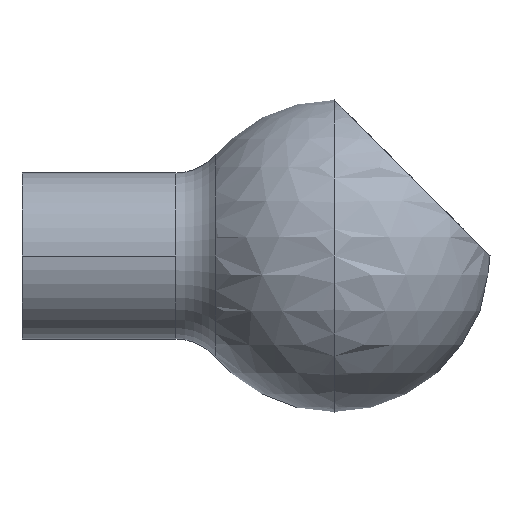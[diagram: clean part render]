
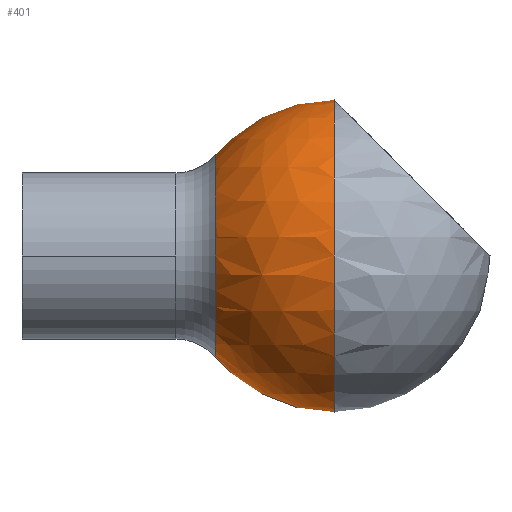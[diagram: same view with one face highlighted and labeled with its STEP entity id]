
A CAD part, left-side view. The second image highlights one B-rep face of the part: STEP entity #401.
In plain terms, the highlighted spherical face has radius 15 mm.
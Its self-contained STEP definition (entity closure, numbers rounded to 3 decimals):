
#153 = EDGE_CURVE( '', #283, #293, #427, .T. );
#199 = EDGE_CURVE( '', #347, #283, #480, .T. );
#259 = VERTEX_POINT( '', #548 );
#279 = VERTEX_POINT( '', #570 );
#283 = VERTEX_POINT( '', #574 );
#293 = VERTEX_POINT( '', #584 );
#297 = VERTEX_POINT( '', #588 );
#305 = VERTEX_POINT( '', #596 );
#323 = EDGE_CURVE( '', #293, #305, #614, .T. );
#333 = EDGE_CURVE( '', #305, #297, #626, .T. );
#339 = EDGE_CURVE( '', #259, #279, #632, .T. );
#347 = VERTEX_POINT( '', #642 );
#349 = EDGE_CURVE( '', #367, #347, #644, .T. );
#367 = VERTEX_POINT( '', #664 );
#379 = EDGE_CURVE( '', #297, #259, #676, .T. );
#401 = ADVANCED_FACE( '', ( #702 ), #703, .T. );
#407 = EDGE_CURVE( '', #279, #367, #709, .T. );
#427 = CIRCLE( '', #720, 9.75 );
#480 = CIRCLE( '', #785, 9.75 );
#548 = CARTESIAN_POINT( '', ( 0., -30., -15. ) );
#570 = CARTESIAN_POINT( '', ( 9., -30., -12. ) );
#574 = CARTESIAN_POINT( '', ( 0., -18.601, 9.75 ) );
#584 = CARTESIAN_POINT( '', ( 9., -18.601, 3.75 ) );
#588 = CARTESIAN_POINT( '', ( 0., -30., 15. ) );
#596 = CARTESIAN_POINT( '', ( 9., -30., 12. ) );
#614 = CIRCLE( '', #967, 12. );
#626 = CIRCLE( '', #980, 15. );
#632 = CIRCLE( '', #988, 15. );
#642 = CARTESIAN_POINT( '', ( 0., -18.601, -9.75 ) );
#644 = CIRCLE( '', #1002, 9.75 );
#664 = CARTESIAN_POINT( '', ( 9., -18.601, -3.75 ) );
#676 = CIRCLE( '', #1043, 15. );
#702 = FACE_OUTER_BOUND( '', #1092, .T. );
#703 = SPHERICAL_SURFACE( '', #1093, 15. );
#709 = CIRCLE( '', #1102, 12. );
#720 = AXIS2_PLACEMENT_3D( '', #1106, #1107, #1108 );
#785 = AXIS2_PLACEMENT_3D( '', #1194, #1195, #1196 );
#967 = AXIS2_PLACEMENT_3D( '', #1353, #1354, #1355 );
#980 = AXIS2_PLACEMENT_3D( '', #1374, #1375, #1376 );
#988 = AXIS2_PLACEMENT_3D( '', #1380, #1381, #1382 );
#1002 = AXIS2_PLACEMENT_3D( '', #1404, #1405, #1406 );
#1043 = AXIS2_PLACEMENT_3D( '', #1430, #1431, #1432 );
#1092 = EDGE_LOOP( '', ( #1471, #1472, #1473, #1474, #1475, #1476, #1477, #1478 ) );
#1093 = AXIS2_PLACEMENT_3D( '', #1479, #1480, #1481 );
#1102 = AXIS2_PLACEMENT_3D( '', #1488, #1489, #1490 );
#1106 = CARTESIAN_POINT( '', ( 0., -18.601, 0. ) );
#1107 = DIRECTION( '', ( 0., 1., 0. ) );
#1108 = DIRECTION( '', ( 0., 0., 1. ) );
#1194 = CARTESIAN_POINT( '', ( 0., -18.601, 0. ) );
#1195 = DIRECTION( '', ( 0., 1., 0. ) );
#1196 = DIRECTION( '', ( 0., 0., 1. ) );
#1353 = CARTESIAN_POINT( '', ( 9., -30., 0. ) );
#1354 = DIRECTION( '', ( 1., 0., 0. ) );
#1355 = DIRECTION( '', ( 0., 0., -1. ) );
#1374 = CARTESIAN_POINT( '', ( 0., -30., 0. ) );
#1375 = DIRECTION( '', ( 0., -1., 0. ) );
#1376 = DIRECTION( '', ( 0., 0., 1. ) );
#1380 = CARTESIAN_POINT( '', ( 0., -30., 0. ) );
#1381 = DIRECTION( '', ( 0., -1., 0. ) );
#1382 = DIRECTION( '', ( 0., 0., 1. ) );
#1404 = CARTESIAN_POINT( '', ( 0., -18.601, 0. ) );
#1405 = DIRECTION( '', ( 0., 1., 0. ) );
#1406 = DIRECTION( '', ( 0., 0., 1. ) );
#1430 = CARTESIAN_POINT( '', ( 0., -30., 0. ) );
#1431 = DIRECTION( '', ( 0., -1., 0. ) );
#1432 = DIRECTION( '', ( 0., 0., 1. ) );
#1471 = ORIENTED_EDGE( '', *, *, #379, .F. );
#1472 = ORIENTED_EDGE( '', *, *, #333, .F. );
#1473 = ORIENTED_EDGE( '', *, *, #323, .F. );
#1474 = ORIENTED_EDGE( '', *, *, #153, .F. );
#1475 = ORIENTED_EDGE( '', *, *, #199, .F. );
#1476 = ORIENTED_EDGE( '', *, *, #349, .F. );
#1477 = ORIENTED_EDGE( '', *, *, #407, .F. );
#1478 = ORIENTED_EDGE( '', *, *, #339, .F. );
#1479 = CARTESIAN_POINT( '', ( 0., -30., 0. ) );
#1480 = DIRECTION( '', ( 0., 0., 1. ) );
#1481 = DIRECTION( '', ( 1., 0., 0. ) );
#1488 = CARTESIAN_POINT( '', ( 9., -30., 0. ) );
#1489 = DIRECTION( '', ( 1., 0., 0. ) );
#1490 = DIRECTION( '', ( 0., 0., -1. ) );
